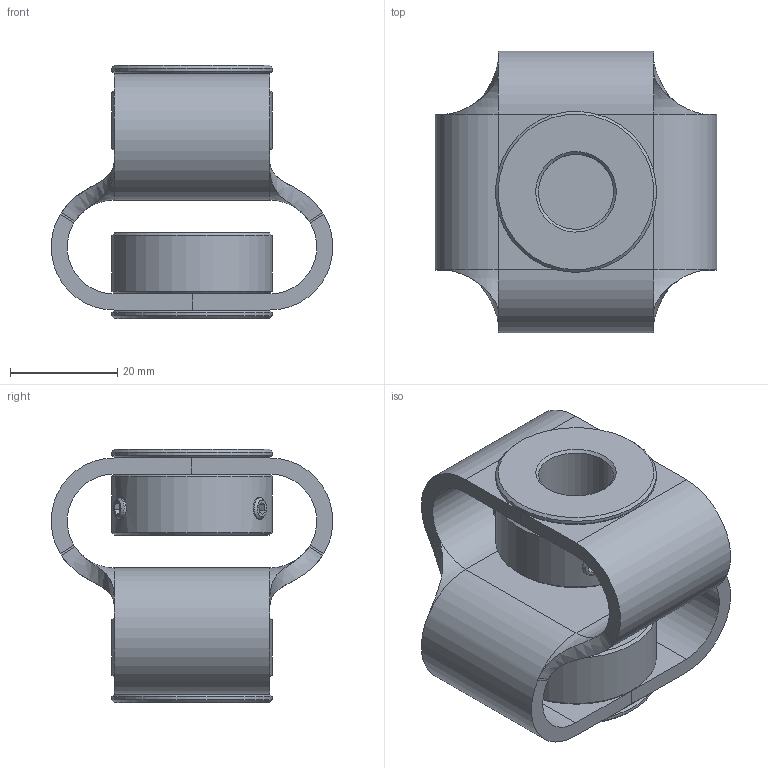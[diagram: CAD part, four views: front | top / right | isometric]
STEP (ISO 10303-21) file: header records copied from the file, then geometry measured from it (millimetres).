
FILE_DESCRIPTION(/* description */ ('Stern'),/* implementation_level */ '2;1');
FILE_NAME(/* name */ 'Z:\ABP-Antriebstechnik\Entwicklung-3D\Paguflex\DKPSX5658\DKPSX5658 14 18.stp',/* time_stamp */ '2021-06-21T12:01:24+02:00',/* author */ ('christian.fehrenbach'),/* organization */ (''),/* preprocessor_version */ 'ST-DEVELOPER v16.1',/* originating_system */ 'Autodesk Inventor 2016',/* authorisation */ '');
FILE_SCHEMA (('AUTOMOTIVE_DESIGN { 1 0 10303 214 3 1 1 }'));
Length unit declared in the file: millimetre
Products named in the file (5): DKPS 5658 Stern gebogen; Schraubnabe 2915 18; Schraubnabe 2915 14; DIN 916 - M4  x  6; DKPSX5658 14 18
Assembly tree (7 placements, depth 2):
  DKPSX5658 14 18
    DKPS 5658 Stern gebogen
    Schraubnabe 2915 18
    Schraubnabe 2915 14
    DIN 916 - M4  x  6  x4
Bounding box: 52.48 x 52.48 x 47.2 mm (x, y, z)
Volume: 30637.7 mm3; surface area: 20910.7 mm2
Topology: 7 solids, 11 shells, 158 faces, 342 edges, 194 vertices
Faces by surface type: plane 82, cylinder 28, cone 28, bspline 12, torus 8
Full cylindrical faces by diameter (mm): 4 x4, 4.134 x4, 14 x1, 18 x1, 22 x2, 30 x4
Entity records: 3371 total; most frequent: CARTESIAN_POINT 1120, DIRECTION 442, ORIENTED_EDGE 408, EDGE_CURVE 196, AXIS2_PLACEMENT_3D 182, EDGE_LOOP 148, VERTEX_POINT 128, FACE_OUTER_BOUND 104
